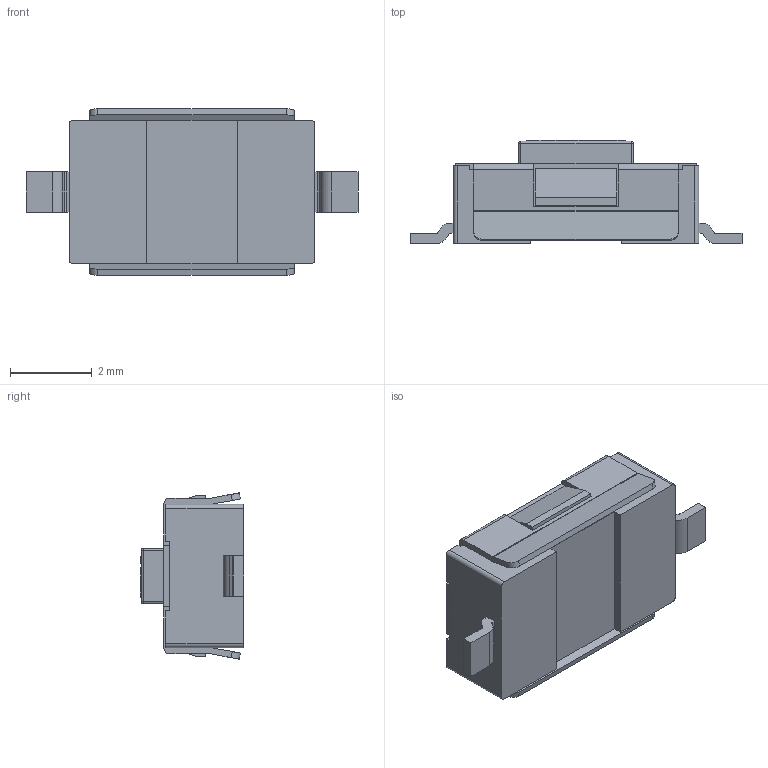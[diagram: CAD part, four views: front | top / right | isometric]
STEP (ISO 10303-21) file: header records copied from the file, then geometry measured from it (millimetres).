
FILE_DESCRIPTION((''),'2;1');
FILE_NAME('ASM0001_ASM','2024-01-06T',('WYH'),(''),'PRO/ENGINEER BY PARAMETRIC TECHNOLOGY CORPORATION, 2013040','PRO/ENGINEER BY PARAMETRIC TECHNOLOGY CORPORATION, 2013040','');
FILE_SCHEMA(('CONFIG_CONTROL_DESIGN'));
Length unit declared in the file: millimetre
Products named in the file (1): ASM0001_ASM
Bounding box: 8.1 x 2.52 x 4.05 mm (x, y, z)
Volume: 44.4 mm3; surface area: 113.3 mm2
Topology: 1 solids, 1 shells, 187 faces, 510 edges, 332 vertices
Faces by surface type: plane 136, cylinder 47, sphere 4
Entity records: 5864 total; most frequent: CARTESIAN_POINT 1025, ORIENTED_EDGE 1012, DIRECTION 974, EDGE_CURVE 506, VECTOR 412, LINE 412, VERTEX_POINT 332, AXIS2_PLACEMENT_3D 281
